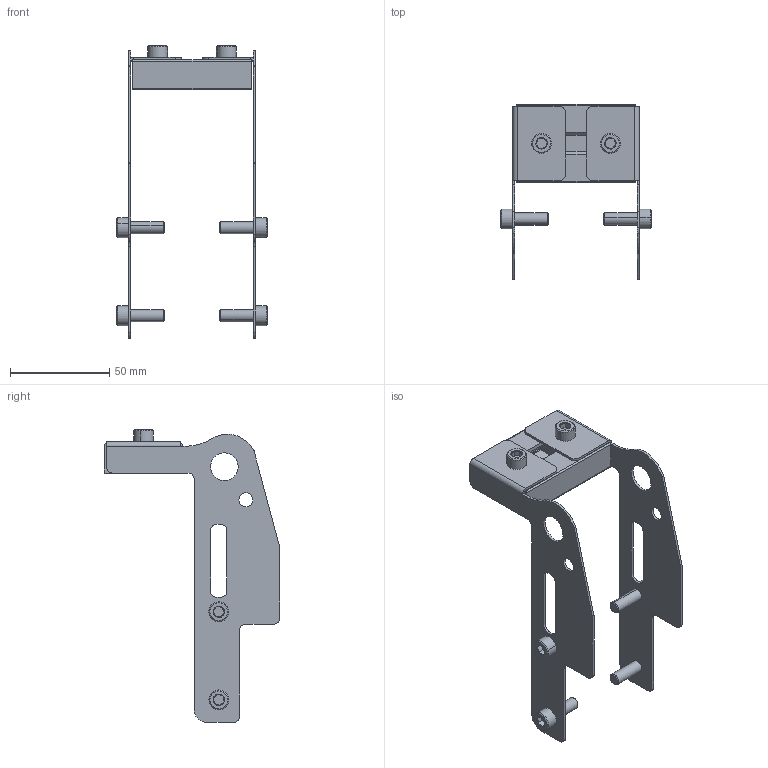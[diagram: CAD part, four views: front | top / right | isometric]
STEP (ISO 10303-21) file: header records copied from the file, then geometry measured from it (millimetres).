
FILE_DESCRIPTION (( 'STEP AP203' ), '1' );
FILE_NAME ('207213-02.STEP', '2017-03-31T16:26:00', ( '' ), ( '' ), 'SwSTEP 2.0', 'SolidWorks 2015', '' );
FILE_SCHEMA (( 'CONFIG_CONTROL_DESIGN' ));
Length unit declared in the file: inch
Products named in the file (7): 9206XXM_920612M; 207213-02; 834-FASN-M6; 207216-WW_207216-02; 207130-LH; 207130-RH; 9206XXM_920618M
Assembly tree (11 placements, depth 2):
  207213-02
    207130-RH
    207216-WW_207216-02
    834-FASN-M6  x2
    9206XXM_920612M  x2
    207130-LH
    9206XXM_920618M  x4
Bounding box: 76.06 x 88.64 x 147.88 mm (x, y, z)
Volume: 39161.7 mm3; surface area: 45934.3 mm2
Topology: 11 solids, 11 shells, 342 faces, 812 edges, 504 vertices
Faces by surface type: plane 148, cylinder 128, cone 66
Entity records: 8241 total; most frequent: CARTESIAN_POINT 1368, DIRECTION 1330, ORIENTED_EDGE 1212, EDGE_CURVE 606, AXIS2_PLACEMENT_3D 490, VERTEX_POINT 388, LINE 350, VECTOR 350
